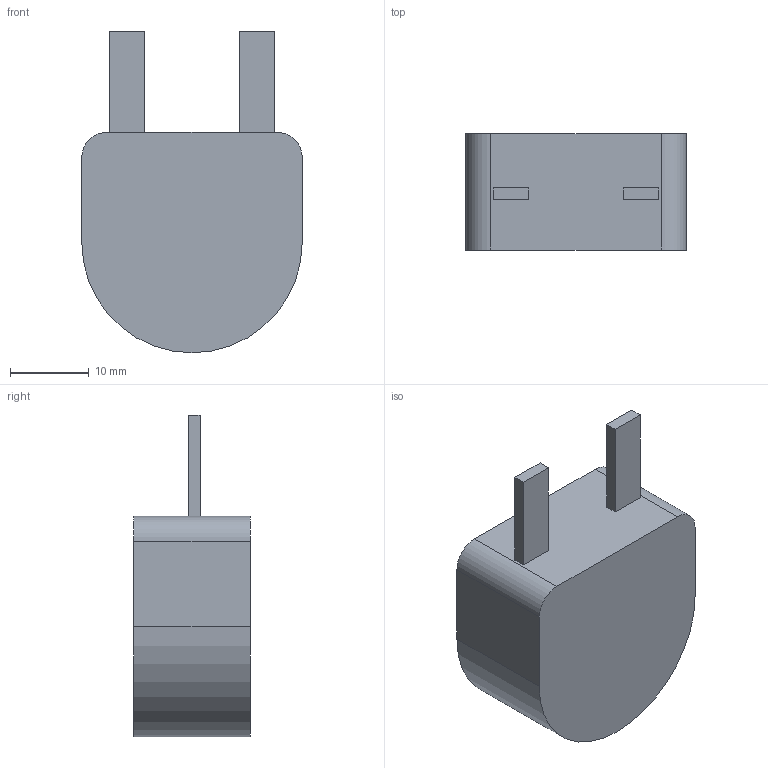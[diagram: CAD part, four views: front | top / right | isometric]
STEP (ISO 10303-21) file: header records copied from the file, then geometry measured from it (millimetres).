
FILE_DESCRIPTION (( 'STEP AP214' ), '1' );
FILE_NAME ('IHXL1100OZEB4R7K3A.STEP', '2025-08-07T20:39:29', ( '' ), ( '' ), 'SwSTEP 2.0', 'SolidWorks 2024', '' );
FILE_SCHEMA (( 'AUTOMOTIVE_DESIGN' ));
Length unit declared in the file: inch
Products named in the file (1): IHXL1100OZEB4R7K3A
Bounding box: 27.94 x 14.76 x 40.77 mm (x, y, z)
Volume: 10393.1 mm3; surface area: 3124.8 mm2
Topology: 1 solids, 1 shells, 19 faces, 45 edges, 30 vertices
Faces by surface type: plane 15, cylinder 4
Entity records: 574 total; most frequent: CARTESIAN_POINT 95, DIRECTION 93, ORIENTED_EDGE 90, EDGE_CURVE 45, VECTOR 37, LINE 37, VERTEX_POINT 30, AXIS2_PLACEMENT_3D 28
